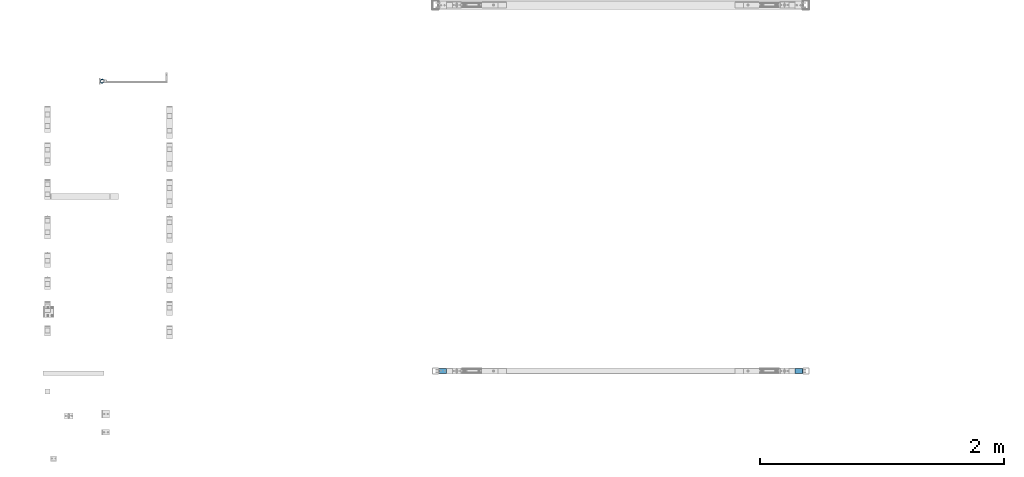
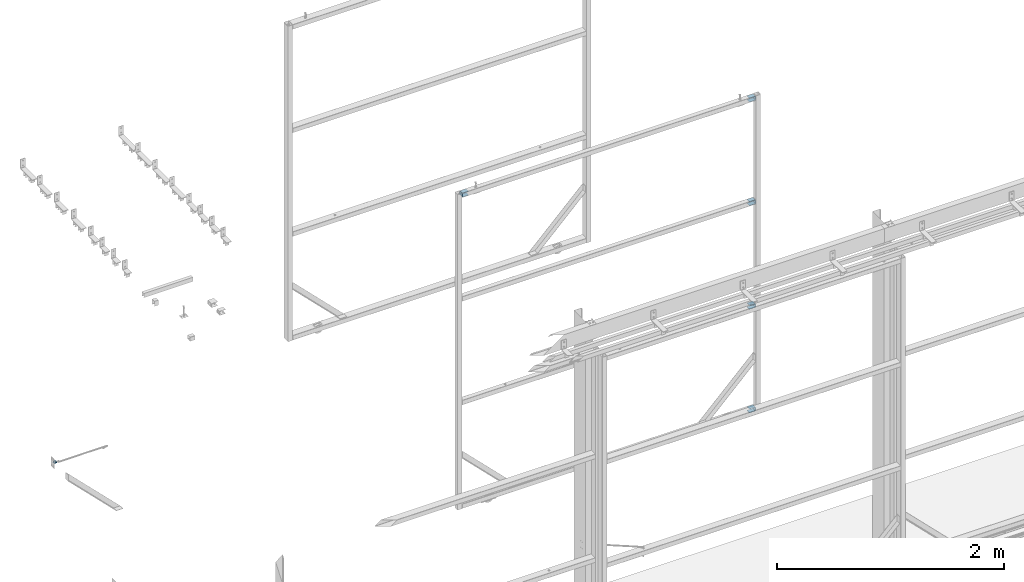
# One storey, part 90 of 91: 6 discrete accessories, 2 elements without a shape of their own.
"""IFC2X3 building model written with IfcOpenShell, lengths in millimetres."""

import ifcopenshell
import ifcopenshell.guid

model = None  # the IFC model being written
_history = None  # IfcOwnerHistory: only IFC2X3 demands one
_inside = {}  # id of a spatial element -> (the spatial element, [elements in it])
_under = {}  # id of a project, library or spatial element -> (it, [spatial elements below it])
_declared = {}  # id of a project -> (the project, [libraries it declares])
_typed = {}  # id of a type object -> (the type object, [elements of that type])
_made_of = {}  # id of a material, layer set ... -> (it, [elements and type objects made of it])


def new_model(schema):
    """Start an empty IFC model of exactly this schema.

    Asked for "IFC4X3", IfcOpenShell would pick the latest addendum, in which some entities
    have other attributes; the version numbers below select the first issue.
    IFC2X3 requires an IfcOwnerHistory on every rooted entity: one is made here for all.
    """
    global model, _history
    if schema == "IFC4X3":
        model = ifcopenshell.file(schema_version=(4, 3, 0, 0))
    else:
        model = ifcopenshell.file(schema=schema)
    _inside.clear()
    _under.clear()
    _declared.clear()
    _typed.clear()
    _made_of.clear()
    _history = None
    if model.schema == "IFC2X3":
        org = make("IfcOrganization", Name="unknown")
        user = make(
            "IfcPersonAndOrganization",
            ThePerson=make("IfcPerson", FamilyName="unknown"),
            TheOrganization=org,
        )
        app = make(
            "IfcApplication",
            ApplicationDeveloper=org,
            Version="unknown",
            ApplicationFullName="unknown",
            ApplicationIdentifier="unknown",
        )
        _history = make(
            "IfcOwnerHistory",
            OwningUser=user,
            OwningApplication=app,
            ChangeAction="ADDED",
            CreationDate=0,
        )
    return model


def make(cls, **values):
    """One entity of the class cls with the attributes given. An attribute that is None is left unset."""
    return model.create_entity(
        cls, **{name: value for name, value in values.items() if value is not None}
    )


def rooted(cls, **values):
    """An entity with a GlobalId (a new one), such as an element, a storey or a relation."""
    return make(cls, GlobalId=ifcopenshell.guid.new(), OwnerHistory=_history, **values)


def si_unit(unit_type, name, prefix=None):
    """IfcSIUnit, for example si_unit("LENGTHUNIT", "METRE", prefix="MILLI")."""
    return make("IfcSIUnit", UnitType=unit_type, Prefix=prefix, Name=name)


def assignment(units):
    """IfcUnitAssignment: the units of a project."""
    return None if units is None else make("IfcUnitAssignment", Units=units)


def point(xyz):
    """IfcCartesianPoint."""
    return None if xyz is None else make("IfcCartesianPoint", Coordinates=xyz)


def direction(xyz):
    """IfcDirection."""
    return None if xyz is None else make("IfcDirection", DirectionRatios=xyz)


def frame(location, z_axis=None, x_axis=None):
    """IfcAxis2Placement3D, a coordinate frame: its origin and axes. An axis left out is left unset."""
    return make(
        "IfcAxis2Placement3D",
        Location=point(location),
        Axis=direction(z_axis),
        RefDirection=direction(x_axis),
    )


def origin_with_axes():
    """The frame at (0, 0, 0) with the z axis (0, 0, 1) and the x axis (1, 0, 0) written out."""
    return frame((0.0, 0.0, 0.0), z_axis=(0.0, 0.0, 1.0), x_axis=(1.0, 0.0, 0.0))


def place(relative_to, where):
    """IfcLocalPlacement: puts the frame where relative to a parent placement (None: the world)."""
    return make(
        "IfcLocalPlacement", PlacementRelTo=relative_to, RelativePlacement=where
    )


def context(
    kind, dimensions, precision=None, world=None, true_north=None, identifier=None
):
    """IfcGeometricRepresentationContext, for example the 3D "Model" context."""
    return make(
        "IfcGeometricRepresentationContext",
        ContextIdentifier=identifier,
        ContextType=kind,
        CoordinateSpaceDimension=dimensions,
        Precision=precision,
        WorldCoordinateSystem=world,
        TrueNorth=true_north,
    )


def subcontext(parent, identifier, kind, view, scale=None):
    """IfcGeometricRepresentationSubContext, for example "Body" below "Model"."""
    return make(
        "IfcGeometricRepresentationSubContext",
        ContextIdentifier=identifier,
        ContextType=kind,
        ParentContext=parent,
        TargetScale=scale,
        TargetView=view,
    )


def project(units=None, contexts=None):
    """IfcProject with its units and contexts."""
    return rooted(
        "IfcProject",
        Name="project",
        RepresentationContexts=contexts,
        UnitsInContext=assignment(units),
    )


def spatial(cls, under=None, at=None, **own):
    """A site, building, storey or space (cls), placed at a placement, below another one or the project."""
    s = rooted(cls, ObjectPlacement=at, **own)
    if under is not None:
        _under.setdefault(under.id(), (under, []))[1].append(s)
    return s


def faces_of(points, faces, orient=None, outer=None):
    """IfcFace entities. A face is a list of loops; a loop is a list of indices into points, from 0.

    orient and outer hold one flag for each loop. By default every Orientation is true, the
    first loop of a face is its IfcFaceOuterBound and the others are IfcFaceBound.
    """
    made = []
    for i, loops in enumerate(faces):
        bounds = []
        for j, loop in enumerate(loops):
            is_outer = j == 0 if outer is None else outer[i][j]
            bounds.append(
                make(
                    "IfcFaceOuterBound" if is_outer else "IfcFaceBound",
                    Bound=make("IfcPolyLoop", Polygon=[points[k] for k in loop]),
                    Orientation=True if orient is None else orient[i][j],
                )
            )
        made.append(make("IfcFace", Bounds=bounds))
    return made


def faceted_brep(points, faces, orient=None, outer=None, voids=None):
    """IfcFacetedBrep: a solid bounded by flat faces; with voids (closed shells), ...WithVoids."""
    shared = [point(p) for p in points]
    hull = make("IfcClosedShell", CfsFaces=faces_of(shared, faces, orient, outer))
    if voids is None:
        return make("IfcFacetedBrep", Outer=hull)
    return make(
        "IfcFacetedBrepWithVoids",
        Outer=hull,
        Voids=[
            make(cls, CfsFaces=faces_of(shared, fs, o, b)) for cls, fs, o, b in voids
        ],
    )


def shape(context_of_items, identifier, shape_type, items):
    """IfcShapeRepresentation: the items that make up one representation, for example the "Body"."""
    return make(
        "IfcShapeRepresentation",
        ContextOfItems=context_of_items,
        RepresentationIdentifier=identifier,
        RepresentationType=shape_type,
        Items=items,
    )


def material(Name=None, Category=None):
    """IfcMaterial."""
    return make("IfcMaterial", Name=Name, Category=Category)


def made_of(thing, what):
    """Note that an element or type object is made of a material, layer set ...; save() writes the relation."""
    if what is not None:
        _made_of.setdefault(what.id(), (what, []))[1].append(thing)
    return thing


def type_object(cls, material=None, **own):
    """A type object (cls), such as IfcWallType, which elements share."""
    return made_of(rooted(cls, **own), material)


def element(
    cls,
    number,
    at=None,
    inside=None,
    cuts=None,
    type_object=None,
    material=None,
    context=None,
    identifier="Body",
    shape_type=None,
    held_by="IfcProductDefinitionShape",
    body=None,
    shapes=None,
    **own,
):
    """One element of the class cls, such as IfcWall. Its Tag is "e" and its number.

    at: its placement. inside: the storey or other place that contains it. cuts: it is an
    opening in that element (IfcRelVoidsElement). A single representation is given by context,
    identifier, shape_type and body (its items); several are given by shapes. held_by: the class
    of the entity that holds the representations. save() writes the other relations.
    """
    e = rooted(cls, Tag="e%d" % number, ObjectPlacement=at, **own)
    if body is not None:
        shapes = [shape(context, identifier, shape_type, body)]
    if shapes is not None:
        e.Representation = make(held_by, Representations=shapes)
    if inside is not None:
        _inside.setdefault(inside.id(), (inside, []))[1].append(e)
    if cuts is not None:
        rooted(
            "IfcRelVoidsElement", RelatingBuildingElement=cuts, RelatedOpeningElement=e
        )
    if type_object is not None:
        _typed.setdefault(type_object.id(), (type_object, []))[1].append(e)
    return made_of(e, material)


def aggregate(whole, parts):
    """IfcRelAggregates: a whole, such as a stair, and the parts it consists of."""
    return rooted("IfcRelAggregates", RelatingObject=whole, RelatedObjects=parts)


def save(model, path):
    """Write the relations noted so far, then the file.

    IfcRelAggregates (storeys below a building ...), IfcRelContainedInSpatialStructure (elements
    in a storey), IfcRelDefinesByType, IfcRelAssociatesMaterial and IfcRelDeclares: one each for
    every whole, place, type object, material and project.
    """
    for whole, parts in _under.values():
        aggregate(whole, parts)
    for where, things in _inside.values():
        rooted(
            "IfcRelContainedInSpatialStructure",
            RelatedElements=things,
            RelatingStructure=where,
        )
    for kind, things in _typed.values():
        rooted("IfcRelDefinesByType", RelatedObjects=things, RelatingType=kind)
    for what, things in _made_of.values():
        rooted("IfcRelAssociatesMaterial", RelatedObjects=things, RelatingMaterial=what)
    for by, libraries in _declared.values():
        rooted("IfcRelDeclares", RelatingContext=by, RelatedDefinitions=libraries)
    model.write(path)


model = new_model("IFC2X3")

# Units and contexts
model_context = context("Model", 3, precision=1e-05, world=origin_with_axes())
body_context = subcontext(model_context, "Body", "Model", "MODEL_VIEW")
ifc_project = project(units=[si_unit("LENGTHUNIT", "METRE", prefix="MILLI"), si_unit("AREAUNIT", "SQUARE_METRE"), si_unit("VOLUMEUNIT", "CUBIC_METRE"), si_unit("MASSUNIT", "GRAM", prefix="KILO"), si_unit("TIMEUNIT", "SECOND"), si_unit("PLANEANGLEUNIT", "RADIAN"), si_unit("SOLIDANGLEUNIT", "STERADIAN"), si_unit("THERMODYNAMICTEMPERATUREUNIT", "DEGREE_CELSIUS"), si_unit("LUMINOUSINTENSITYUNIT", "LUMEN")], contexts=[model_context])

# Site, building, storey
site_placement = place(None, origin_with_axes())
site = spatial("IfcSite", under=ifc_project, at=site_placement, Name="Undefined", CompositionType="ELEMENT")
building_placement = place(site_placement, origin_with_axes())
building = spatial("IfcBuilding", under=site, at=building_placement, Name="Undefined", CompositionType="ELEMENT")
storey_placement = place(building_placement, origin_with_axes())
storey = spatial("IfcBuildingStorey", under=building, at=storey_placement, Name="Undefined", CompositionType="ELEMENT", Elevation=0.0)

# Assembly, discrete accessories
assembly_1_placement = place(storey_placement, origin_with_axes())
assembly_1 = element("IfcElementAssembly", 1, at=assembly_1_placement, inside=storey, Name="Sliding Door Beam", AssemblyPlace="NOTDEFINED", PredefinedType="RIGID_FRAME")
ifc_material_1 = material(Name="STEEL/450")
discrete_accessory_type_1 = type_object("IfcDiscreteAccessoryType", Name="PLATE")
discrete_accessory_1_placement = place(assembly_1_placement, frame((-110666.29, 90380.0, 28.5), z_axis=(0.0, -1.0, 0.0), x_axis=(1.0, 0.0, 0.0)))
discrete_accessory_1 = element("IfcDiscreteAccessory", 2, at=discrete_accessory_1_placement, type_object=discrete_accessory_type_1, material=ifc_material_1, Name="PLATE", ObjectType="PLT3*44", context=body_context, shape_type="Brep", body=[
    faceted_brep([(0.0, 1.5, -22.0), (0.0, 1.5, 22.0), (56.0, 1.5, 22.0), (55.9999999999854, 1.5, -22.0), (0.0, -1.5, 22.0), (0.0, -1.5, -22.0), (56.0, -1.5, -22.0), (56.0, -1.5, 22.0), (60.5000000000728, 0.29422863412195, 22.0), (60.5000000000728, 0.29422863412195, -22.0), (59.0000000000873, -2.30384757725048, -22.0), (59.0000000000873, -2.30384757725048, 22.0), (61.1961524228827, -4.49999999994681, -22.0), (61.1961524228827, -4.49999999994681, 22.0), (63.7942286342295, -2.99999999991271, 22.0), (63.7942286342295, -2.99999999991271, -22.0), (62.0000000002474, -7.49999999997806, -22.0), (62.0000000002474, -7.49999999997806, 22.0), (65.0000000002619, -7.49999999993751, 22.0), (65.0, -7.5, -22.0), (65.0, -33.5, 22.0), (65.0000000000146, -33.5000000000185, -22.0), (62.0, -33.5, -22.0), (62.0, -33.5, 22.0), (63.7942286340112, -37.9999999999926, 22.0), (63.7942286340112, -37.9999999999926, -22.0), (61.1961524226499, -36.4999999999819, -22.0), (61.1961524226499, -36.4999999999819, 22.0), (58.9999999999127, -38.6961524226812, -22.0), (58.9999999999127, -38.6961524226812, 22.0), (60.4999999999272, -41.2942286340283, 22.0), (60.4999999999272, -41.2942286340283, -22.0), (55.9999999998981, -39.4999999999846, -22.0), (55.9999999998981, -39.4999999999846, 22.0), (55.9999999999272, -42.4999999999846, 22.0), (56.0, -42.5, -22.0), (0.0, -42.5, 22.0), (0.0, -42.5, -22.0), (0.0, -39.5, 22.0), (0.0, -39.5, -22.0)], [[[0, 1, 2, 3]], [[4, 5, 6, 7]], [[5, 4, 1, 0]], [[3, 2, 8, 9]], [[7, 6, 10, 11]], [[10, 12, 13, 11]], [[8, 14, 15, 9]], [[12, 16, 17, 13]], [[14, 18, 19, 15]], [[19, 18, 20, 21]], [[17, 16, 22, 23]], [[21, 20, 24, 25]], [[23, 22, 26, 27]], [[26, 28, 29, 27]], [[24, 30, 31, 25]], [[28, 32, 33, 29]], [[30, 34, 35, 31]], [[35, 34, 36, 37]], [[34, 30, 24, 20, 18, 14, 8, 2, 1, 4, 7, 11, 13, 17, 23, 27, 29, 33, 38, 36]], [[33, 32, 39, 38]], [[32, 28, 26, 22, 16, 12, 10, 6, 5, 0, 3, 9, 15, 19, 21, 25, 31, 35, 37, 39]], [[38, 39, 37, 36]]]),
])
discrete_accessory_2_placement = place(assembly_1_placement, frame((-110666.29, 90380.0, 1142.83666666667), z_axis=(0.0, -1.0, 0.0), x_axis=(1.0, 0.0, 0.0)))
discrete_accessory_2 = element("IfcDiscreteAccessory", 3, at=discrete_accessory_2_placement, type_object=discrete_accessory_type_1, material=ifc_material_1, Name="PLATE", ObjectType="PLT3*44", context=body_context, shape_type="Brep", body=[
    faceted_brep([(0.0, 1.5, -22.0), (0.0, 1.5, 22.0), (56.0, 1.5, 22.0), (55.9999999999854, 1.5, -22.0), (0.0, -1.5, 22.0), (0.0, -1.5, -22.0), (56.0, -1.5, -22.0), (56.0, -1.5, 22.0), (60.5000000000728, 0.29422863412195, 22.0), (60.5000000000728, 0.29422863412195, -22.0), (59.0000000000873, -2.30384757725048, -22.0), (59.0000000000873, -2.30384757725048, 22.0), (61.1961524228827, -4.49999999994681, -22.0), (61.1961524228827, -4.49999999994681, 22.0), (63.7942286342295, -2.99999999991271, 22.0), (63.7942286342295, -2.99999999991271, -22.0), (62.0000000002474, -7.49999999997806, -22.0), (62.0000000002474, -7.49999999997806, 22.0), (65.0000000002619, -7.49999999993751, 22.0), (65.0, -7.5, -22.0), (65.0, -33.5, 22.0), (65.0000000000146, -33.5000000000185, -22.0), (62.0, -33.5, -22.0), (62.0, -33.5, 22.0), (63.7942286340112, -37.9999999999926, 22.0), (63.7942286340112, -37.9999999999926, -22.0), (61.1961524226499, -36.4999999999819, -22.0), (61.1961524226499, -36.4999999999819, 22.0), (58.9999999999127, -38.6961524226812, -22.0), (58.9999999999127, -38.6961524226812, 22.0), (60.4999999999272, -41.2942286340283, 22.0), (60.4999999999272, -41.2942286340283, -22.0), (55.9999999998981, -39.4999999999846, -22.0), (55.9999999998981, -39.4999999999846, 22.0), (55.9999999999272, -42.4999999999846, 22.0), (56.0, -42.5, -22.0), (0.0, -42.5, 22.0), (0.0, -42.5, -22.0), (0.0, -39.5, 22.0), (0.0, -39.5, -22.0)], [[[0, 1, 2, 3]], [[4, 5, 6, 7]], [[5, 4, 1, 0]], [[3, 2, 8, 9]], [[7, 6, 10, 11]], [[10, 12, 13, 11]], [[8, 14, 15, 9]], [[12, 16, 17, 13]], [[14, 18, 19, 15]], [[19, 18, 20, 21]], [[17, 16, 22, 23]], [[21, 20, 24, 25]], [[23, 22, 26, 27]], [[26, 28, 29, 27]], [[24, 30, 31, 25]], [[28, 32, 33, 29]], [[30, 34, 35, 31]], [[35, 34, 36, 37]], [[34, 30, 24, 20, 18, 14, 8, 2, 1, 4, 7, 11, 13, 17, 23, 27, 29, 33, 38, 36]], [[33, 32, 39, 38]], [[32, 28, 26, 22, 16, 12, 10, 6, 5, 0, 3, 9, 15, 19, 21, 25, 31, 35, 37, 39]], [[38, 39, 37, 36]]]),
])
discrete_accessory_3_placement = place(assembly_1_placement, frame((-110666.29, 90380.0, 2257.16333333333), z_axis=(0.0, -1.0, 0.0), x_axis=(1.0, 0.0, 0.0)))
discrete_accessory_3 = element("IfcDiscreteAccessory", 4, at=discrete_accessory_3_placement, type_object=discrete_accessory_type_1, material=ifc_material_1, Name="PLATE", ObjectType="PLT3*44", context=body_context, shape_type="Brep", body=[
    faceted_brep([(0.0, 1.5, -22.0), (0.0, 1.5, 22.0), (56.0, 1.5, 22.0), (55.9999999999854, 1.5, -22.0), (0.0, -1.5, 22.0), (0.0, -1.5, -22.0), (56.0, -1.5, -22.0), (56.0, -1.5, 22.0), (60.5000000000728, 0.29422863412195, 22.0), (60.5000000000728, 0.29422863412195, -22.0), (59.0000000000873, -2.30384757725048, -22.0), (59.0000000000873, -2.30384757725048, 22.0), (61.1961524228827, -4.49999999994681, -22.0), (61.1961524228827, -4.49999999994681, 22.0), (63.7942286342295, -2.99999999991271, 22.0), (63.7942286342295, -2.99999999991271, -22.0), (62.0000000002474, -7.49999999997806, -22.0), (62.0000000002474, -7.49999999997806, 22.0), (65.0000000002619, -7.49999999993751, 22.0), (65.0, -7.5, -22.0), (65.0, -33.5, 22.0), (65.0000000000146, -33.5000000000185, -22.0), (62.0, -33.5, -22.0), (62.0, -33.5, 22.0), (63.7942286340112, -37.9999999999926, 22.0), (63.7942286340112, -37.9999999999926, -22.0), (61.1961524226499, -36.4999999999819, -22.0), (61.1961524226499, -36.4999999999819, 22.0), (58.9999999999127, -38.6961524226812, -22.0), (58.9999999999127, -38.6961524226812, 22.0), (60.4999999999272, -41.2942286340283, 22.0), (60.4999999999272, -41.2942286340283, -22.0), (55.9999999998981, -39.4999999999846, -22.0), (55.9999999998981, -39.4999999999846, 22.0), (55.9999999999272, -42.4999999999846, 22.0), (56.0, -42.5, -22.0), (0.0, -42.5, 22.0), (0.0, -42.5, -22.0), (0.0, -39.5, 22.0), (0.0, -39.5, -22.0)], [[[0, 1, 2, 3]], [[4, 5, 6, 7]], [[5, 4, 1, 0]], [[3, 2, 8, 9]], [[7, 6, 10, 11]], [[10, 12, 13, 11]], [[8, 14, 15, 9]], [[12, 16, 17, 13]], [[14, 18, 19, 15]], [[19, 18, 20, 21]], [[17, 16, 22, 23]], [[21, 20, 24, 25]], [[23, 22, 26, 27]], [[26, 28, 29, 27]], [[24, 30, 31, 25]], [[28, 32, 33, 29]], [[30, 34, 35, 31]], [[35, 34, 36, 37]], [[34, 30, 24, 20, 18, 14, 8, 2, 1, 4, 7, 11, 13, 17, 23, 27, 29, 33, 38, 36]], [[33, 32, 39, 38]], [[32, 28, 26, 22, 16, 12, 10, 6, 5, 0, 3, 9, 15, 19, 21, 25, 31, 35, 37, 39]], [[38, 39, 37, 36]]]),
])
discrete_accessory_4_placement = place(assembly_1_placement, frame((-110666.29, 90380.0, 3371.5), z_axis=(0.0, -1.0, 0.0), x_axis=(1.0, 0.0, 0.0)))
discrete_accessory_4 = element("IfcDiscreteAccessory", 5, at=discrete_accessory_4_placement, type_object=discrete_accessory_type_1, material=ifc_material_1, Name="PLATE", ObjectType="PLT3*44", context=body_context, shape_type="Brep", body=[
    faceted_brep([(0.0, 1.5, -22.0), (0.0, 1.5, 22.0), (56.0, 1.5, 22.0), (55.9999999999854, 1.5, -22.0), (0.0, -1.5, 22.0), (0.0, -1.5, -22.0), (56.0, -1.5, -22.0), (56.0, -1.5, 22.0), (60.5000000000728, 0.29422863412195, 22.0), (60.5000000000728, 0.29422863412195, -22.0), (59.0000000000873, -2.30384757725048, -22.0), (59.0000000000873, -2.30384757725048, 22.0), (61.1961524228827, -4.49999999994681, -22.0), (61.1961524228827, -4.49999999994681, 22.0), (63.7942286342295, -2.99999999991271, 22.0), (63.7942286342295, -2.99999999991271, -22.0), (62.0000000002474, -7.49999999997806, -22.0), (62.0000000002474, -7.49999999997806, 22.0), (65.0000000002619, -7.49999999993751, 22.0), (65.0, -7.5, -22.0), (65.0, -33.5, 22.0), (65.0000000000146, -33.5000000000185, -22.0), (62.0, -33.5, -22.0), (62.0, -33.5, 22.0), (63.7942286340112, -37.9999999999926, 22.0), (63.7942286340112, -37.9999999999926, -22.0), (61.1961524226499, -36.4999999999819, -22.0), (61.1961524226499, -36.4999999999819, 22.0), (58.9999999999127, -38.6961524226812, -22.0), (58.9999999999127, -38.6961524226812, 22.0), (60.4999999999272, -41.2942286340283, 22.0), (60.4999999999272, -41.2942286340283, -22.0), (55.9999999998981, -39.4999999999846, -22.0), (55.9999999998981, -39.4999999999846, 22.0), (55.9999999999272, -42.4999999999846, 22.0), (56.0, -42.5, -22.0), (0.0, -42.5, 22.0), (0.0, -42.5, -22.0), (0.0, -39.5, 22.0), (0.0, -39.5, -22.0)], [[[0, 1, 2, 3]], [[4, 5, 6, 7]], [[5, 4, 1, 0]], [[3, 2, 8, 9]], [[7, 6, 10, 11]], [[10, 12, 13, 11]], [[8, 14, 15, 9]], [[12, 16, 17, 13]], [[14, 18, 19, 15]], [[19, 18, 20, 21]], [[17, 16, 22, 23]], [[21, 20, 24, 25]], [[23, 22, 26, 27]], [[26, 28, 29, 27]], [[24, 30, 31, 25]], [[28, 32, 33, 29]], [[30, 34, 35, 31]], [[35, 34, 36, 37]], [[34, 30, 24, 20, 18, 14, 8, 2, 1, 4, 7, 11, 13, 17, 23, 27, 29, 33, 38, 36]], [[33, 32, 39, 38]], [[32, 28, 26, 22, 16, 12, 10, 6, 5, 0, 3, 9, 15, 19, 21, 25, 31, 35, 37, 39]], [[38, 39, 37, 36]]]),
])
discrete_accessory_5_placement = place(assembly_1_placement, frame((-113523.79, 90380.0, 3371.5), z_axis=(0.0, -1.0, 0.0), x_axis=(-1.0, 0.0, 0.0)))
discrete_accessory_5 = element("IfcDiscreteAccessory", 6, at=discrete_accessory_5_placement, type_object=discrete_accessory_type_1, material=ifc_material_1, Name="PLATE", ObjectType="PLT3*44", context=body_context, shape_type="Brep", body=[
    faceted_brep([(0.0, 1.5, -22.0), (0.0, 1.5, 22.0), (56.0, 1.5, 22.0), (55.9999999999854, 1.5, -22.0), (0.0, -1.5, 22.0), (0.0, -1.5, -22.0), (56.0, -1.5, -22.0), (56.0, -1.5, 22.0), (59.0000000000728, 2.30384757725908, 22.0), (59.0000000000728, 2.30384757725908, -22.0), (60.5000000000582, -0.294228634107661, -22.0), (60.5000000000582, -0.294228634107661, 22.0), (63.794228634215, 2.99999999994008, -22.0), (63.794228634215, 2.99999999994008, 22.0), (61.1961524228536, 4.49999999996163, 22.0), (61.1961524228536, 4.49999999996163, -22.0), (65.0000000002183, 7.49999999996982, -22.0), (65.0000000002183, 7.49999999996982, 22.0), (62.0000000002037, 7.49999999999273, 22.0), (62.0, 7.5, -22.0), (62.0, 33.5, 22.0), (61.9999999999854, 33.4999999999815, -22.0), (65.0, 33.5, -22.0), (65.0, 33.5, 22.0), (61.1961524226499, 36.4999999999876, 22.0), (61.1961524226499, 36.4999999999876, -22.0), (63.7942286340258, 37.9999999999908, -22.0), (63.7942286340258, 37.9999999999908, 22.0), (60.4999999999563, 41.2942286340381, -22.0), (60.4999999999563, 41.2942286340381, 22.0), (58.9999999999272, 38.6961524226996, 22.0), (58.9999999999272, 38.6961524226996, -22.0), (55.9999999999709, 42.5000000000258, -22.0), (55.9999999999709, 42.5000000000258, 22.0), (55.9999999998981, 39.5000000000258, 22.0), (56.0, 39.5, -22.0), (0.0, 39.5, 22.0), (0.0, 39.5, -22.0), (0.0, 42.5, 22.0), (0.0, 42.5, -22.0)], [[[0, 1, 2, 3]], [[4, 5, 6, 7]], [[5, 4, 1, 0]], [[3, 2, 8, 9]], [[7, 6, 10, 11]], [[10, 12, 13, 11]], [[8, 14, 15, 9]], [[12, 16, 17, 13]], [[14, 18, 19, 15]], [[19, 18, 20, 21]], [[17, 16, 22, 23]], [[21, 20, 24, 25]], [[23, 22, 26, 27]], [[26, 28, 29, 27]], [[24, 30, 31, 25]], [[28, 32, 33, 29]], [[30, 34, 35, 31]], [[35, 34, 36, 37]], [[34, 30, 24, 20, 18, 14, 8, 2, 1, 4, 7, 11, 13, 17, 23, 27, 29, 33, 38, 36]], [[33, 32, 39, 38]], [[32, 28, 26, 22, 16, 12, 10, 6, 5, 0, 3, 9, 15, 19, 21, 25, 31, 35, 37, 39]], [[38, 39, 37, 36]]]),
])
aggregate(assembly_1, [discrete_accessory_1, discrete_accessory_2, discrete_accessory_3, discrete_accessory_4, discrete_accessory_5])

# Assembly, discrete accessory
assembly_2_placement = place(storey_placement, origin_with_axes())
assembly_2 = element("IfcElementAssembly", 7, at=assembly_2_placement, inside=storey, Name="PLATE", AssemblyPlace="NOTDEFINED", PredefinedType="RIGID_FRAME")
ifc_material_2 = material(Name="STEEL/250")
discrete_accessory_type_2 = type_object("IfcDiscreteAccessoryType", Name="LINK")
discrete_accessory_6_placement = place(assembly_2_placement, frame((-116362.053040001, 92742.0248728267, -6.0), z_axis=(0.0, 1.0, 0.0), x_axis=(1.0, 0.0, 0.0)))
discrete_accessory_6 = element("IfcDiscreteAccessory", 8, at=discrete_accessory_6_placement, type_object=discrete_accessory_type_2, material=ifc_material_2, Name="LINK", ObjectType="D5", context=body_context, shape_type="Brep", body=[
    faceted_brep([(31.767766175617, -1.76776700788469, 14.8999996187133), (32.4999992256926, -5.6170392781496e-08, 14.8999996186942), (32.4999992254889, -5.59666659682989e-08, 15.1000003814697), (31.7677661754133, -1.76776700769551, 15.1000003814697), (31.7677661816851, 1.76776689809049, 14.8999996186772), (31.7677661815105, 1.76776689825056, 15.1000003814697), (29.9999992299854, 2.49999994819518, 14.8999996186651), (29.9999992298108, 2.49999994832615, 15.1000003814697), (28.2322322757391, 1.76776690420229, 14.8999996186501), (28.232232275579, 1.76776690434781, 15.1000003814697), (27.4999992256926, -4.74974513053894e-08, 14.8999996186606), (27.4999992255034, -4.73810359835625e-08, 15.1000003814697), (28.2322322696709, -1.76776700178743, 14.8999996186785), (28.2322322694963, -1.76776700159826, 15.1000003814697), (29.999999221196, -2.5000000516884, 14.8999996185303), (29.9999992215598, -2.50000005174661, 15.100000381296), (28.0037777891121, -2.50000004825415, 22.5500001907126), (26.4728467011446, -1.76776699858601, 21.6661167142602), (25.8387142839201, -4.44706529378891e-08, 21.3000001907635), (26.4728467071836, 1.76776690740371, 21.666116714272), (28.0037777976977, 2.49999995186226, 22.5500001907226), (29.5347088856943, 1.76776690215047, 23.4338836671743), (30.1688413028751, -5.19503373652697e-08, 23.8000001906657), (29.5347088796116, -1.76776700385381, 23.4338836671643), (15.1008655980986, -2.49999993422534, 30.0000000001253), (22.5499994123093, -2.50000003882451, 28.0037785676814), (23.43388289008, -1.76776699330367, 29.5347096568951), (15.1008656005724, -1.767766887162, 31.7677669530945), (15.1008656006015, -1.76776688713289, 28.2322330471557), (21.6661159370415, -1.76776699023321, 26.4728474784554), (15.1008656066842, 6.58328644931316e-08, 27.5000000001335), (21.2999994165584, -3.6612618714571e-08, 25.8387150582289), (15.1008670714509, 1.76776695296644, 28.2322330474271), (21.6661159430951, 1.76776691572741, 26.4728474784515), (15.1008656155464, 2.50000006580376, 30.0), (22.5499994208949, 2.49999996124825, 28.0037785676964), (15.1000003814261, 1.76776695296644, 31.767766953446), (23.433882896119, 1.76776691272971, 29.5347096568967), (15.1008656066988, 6.58183125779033e-08, 32.5000000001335), (23.7999994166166, -4.09199856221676e-08, 30.1688420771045), (29.5347088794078, -1.76776700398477, 6.56611633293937), (28.0037777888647, -2.50000004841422, 7.44999980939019), (30.1688413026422, -5.2081304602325e-08, 6.19999980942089), (29.5347088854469, 1.7677669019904, 6.56611633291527), (28.0037777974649, 2.49999995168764, 7.44999980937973), (26.4728467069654, 1.7677669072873, 8.33388328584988), (25.8387142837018, -4.46161720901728e-08, 8.69999980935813), (26.4728467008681, -1.76776699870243, 8.33388328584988), (22.5499994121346, -2.50000003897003, 1.99622143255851), (21.6661159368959, -1.76776699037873, 3.52715252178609), (23.4338828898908, -1.76776699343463, 0.465290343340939), (23.7999994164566, -4.10655047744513e-08, -0.168842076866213), (23.4338828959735, 1.76776691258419, 0.465290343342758), (22.5499994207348, 2.49999996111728, 1.99622143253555), (21.666115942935, 1.76776691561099, 3.52715252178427), (21.2999994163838, -3.67290340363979e-08, 4.16128494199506), (15.100865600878, -1.76776688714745, 1.76776695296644), (15.1008656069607, 6.58183125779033e-08, 2.5), (15.1008655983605, -2.49999993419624, 0.0), (15.100865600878, -1.76776688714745, -1.76776695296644), (15.1008656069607, 6.58183125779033e-08, -2.5), (15.1008670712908, 1.76776695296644, -1.76776695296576), (15.1008656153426, 2.50000006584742, -8.84483597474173e-11), (15.1000003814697, 1.76776695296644, 1.76776695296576), (-1.56690095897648, 1.76776707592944, 14.899999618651), (-2.29913401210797, 1.25408405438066e-07, 14.8999996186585), (-2.2991340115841, 1.25524820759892e-07, 15.1000003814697), (-1.56690095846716, 1.7677670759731, 15.1000003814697), (-1.56690097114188, -1.76776683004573, 14.8999996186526), (-1.56690097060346, -1.76776682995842, 15.1000003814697), (0.200865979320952, -2.49999988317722, 14.8999996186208), (0.200865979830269, -2.49999988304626, 15.1000003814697), (1.96863293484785, -1.76776684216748, 14.8999996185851), (1.96863293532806, -1.76776684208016, 15.1000003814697), (2.70086598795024, 1.08309905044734e-07, 14.899999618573), (2.7008659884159, 1.08382664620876e-07, 15.1000003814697), (1.96863294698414, 1.7677670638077, 14.8999996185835), (1.96863294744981, 1.7677670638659, 15.1000003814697), (0.200865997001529, 2.50000011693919, 14.8999996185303), (0.200865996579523, 2.50000011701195, 15.1000003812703), (2.19708742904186, 2.5000001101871, 22.5500001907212), (3.72801851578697, 1.76776705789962, 21.6661167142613), (4.36215092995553, 1.02707417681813e-07, 21.3000001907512), (3.72801850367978, -1.76776684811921, 21.6661167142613), (2.19708741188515, -2.49999988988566, 22.5500001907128), (0.666156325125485, -1.76776683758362, 23.43388366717), (0.0320239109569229, 1.17594026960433e-07, 23.8000001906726), (0.66615633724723, 1.76776706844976, 23.4338836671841), (7.65086580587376, 2.50000009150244, 28.003778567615), (6.76698232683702, 1.76776704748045, 29.5347096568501), (8.53474927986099, 1.76776704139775, 26.4728474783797), (8.90086579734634, 8.71368683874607e-08, 25.8387150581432), (8.53474926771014, -1.76776686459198, 26.4728474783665), (7.65086578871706, -2.49999990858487, 28.0037785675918), (6.76698231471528, -1.76776685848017, 29.534709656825), (6.40086579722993, 9.57516022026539e-08, 30.1688420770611), (0.66615633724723, 1.76776706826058, 6.56611633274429), (2.19708742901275, 2.50000011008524, 7.44999980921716), (0.032023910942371, 1.1743395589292e-07, 6.19999980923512), (0.666156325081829, -1.76776683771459, 6.5661163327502), (2.19708741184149, -2.49999988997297, 7.44999980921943), (3.72801850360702, -1.76776684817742, 8.33388328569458), (4.36215092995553, 1.02634658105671e-07, 8.69999980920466), (3.72801851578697, 1.76776705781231, 8.33388328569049), (7.65086580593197, 2.50000009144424, 1.99622143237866), (8.5347492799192, 1.76776704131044, 3.52715252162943), (6.76698232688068, 1.76776704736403, 0.465290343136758), (6.40086579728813, 9.5635186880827e-08, -0.168842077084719), (6.76698231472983, -1.76776685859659, 0.465290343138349), (7.65086578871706, -2.49999990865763, 1.99622143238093), (8.53474926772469, -1.76776686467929, 3.52715252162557), (8.90086579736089, 8.70786607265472e-08, 4.16128494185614)], [[[0, 1, 2, 3]], [[1, 4, 5, 2]], [[4, 6, 7, 5]], [[6, 8, 9, 7]], [[8, 10, 11, 9]], [[10, 12, 13, 11]], [[12, 14, 15, 13]], [[13, 15, 16, 17]], [[11, 13, 17, 18]], [[9, 11, 18, 19]], [[7, 9, 19, 20]], [[5, 7, 20, 21]], [[2, 5, 21, 22]], [[3, 2, 22, 23]], [[24, 25, 26, 27]], [[28, 29, 25, 24]], [[30, 31, 29, 28]], [[32, 33, 31, 30]], [[34, 35, 33, 32]], [[36, 37, 35, 34]], [[38, 39, 37, 36]], [[27, 26, 39, 38]], [[22, 39, 26, 23]], [[21, 37, 39, 22]], [[20, 35, 37, 21]], [[19, 33, 35, 20]], [[18, 31, 33, 19]], [[17, 29, 31, 18]], [[16, 25, 29, 17]], [[23, 26, 25, 16]], [[15, 3, 23, 16]], [[14, 0, 3, 15]], [[40, 0, 14, 41]], [[42, 1, 0, 40]], [[43, 4, 1, 42]], [[44, 6, 4, 43]], [[45, 8, 6, 44]], [[46, 10, 8, 45]], [[47, 12, 10, 46]], [[41, 14, 12, 47]], [[48, 41, 47, 49]], [[50, 40, 41, 48]], [[51, 42, 40, 50]], [[52, 43, 42, 51]], [[53, 44, 43, 52]], [[54, 45, 44, 53]], [[55, 46, 45, 54]], [[49, 47, 46, 55]], [[56, 49, 55, 57]], [[58, 48, 49, 56]], [[59, 50, 48, 58]], [[60, 51, 50, 59]], [[61, 52, 51, 60]], [[62, 53, 52, 61]], [[63, 54, 53, 62]], [[57, 55, 54, 63]], [[64, 65, 66, 67]], [[65, 68, 69, 66]], [[68, 70, 71, 69]], [[70, 72, 73, 71]], [[72, 74, 75, 73]], [[74, 76, 77, 75]], [[76, 78, 79, 77]], [[77, 79, 80, 81]], [[75, 77, 81, 82]], [[73, 75, 82, 83]], [[71, 73, 83, 84]], [[69, 71, 84, 85]], [[66, 69, 85, 86]], [[67, 66, 86, 87]], [[88, 89, 36, 34]], [[90, 88, 34, 32]], [[91, 90, 32, 30]], [[92, 91, 30, 28]], [[93, 92, 28, 24]], [[94, 93, 24, 27]], [[95, 94, 27, 38]], [[89, 95, 38, 36]], [[86, 95, 89, 87]], [[85, 94, 95, 86]], [[84, 93, 94, 85]], [[83, 92, 93, 84]], [[82, 91, 92, 83]], [[81, 90, 91, 82]], [[80, 88, 90, 81]], [[87, 89, 88, 80]], [[79, 67, 87, 80]], [[78, 64, 67, 79]], [[96, 64, 78, 97]], [[98, 65, 64, 96]], [[99, 68, 65, 98]], [[100, 70, 68, 99]], [[101, 72, 70, 100]], [[102, 74, 72, 101]], [[103, 76, 74, 102]], [[97, 78, 76, 103]], [[104, 97, 103, 105]], [[106, 96, 97, 104]], [[107, 98, 96, 106]], [[108, 99, 98, 107]], [[109, 100, 99, 108]], [[110, 101, 100, 109]], [[111, 102, 101, 110]], [[105, 103, 102, 111]], [[105, 111, 57, 63]], [[104, 105, 63, 62]], [[106, 104, 62, 61]], [[107, 106, 61, 60]], [[108, 107, 60, 59]], [[109, 108, 59, 58]], [[110, 109, 58, 56]], [[111, 110, 56, 57]]]),
])
aggregate(assembly_2, [discrete_accessory_6])

save(model, "model.ifc")
